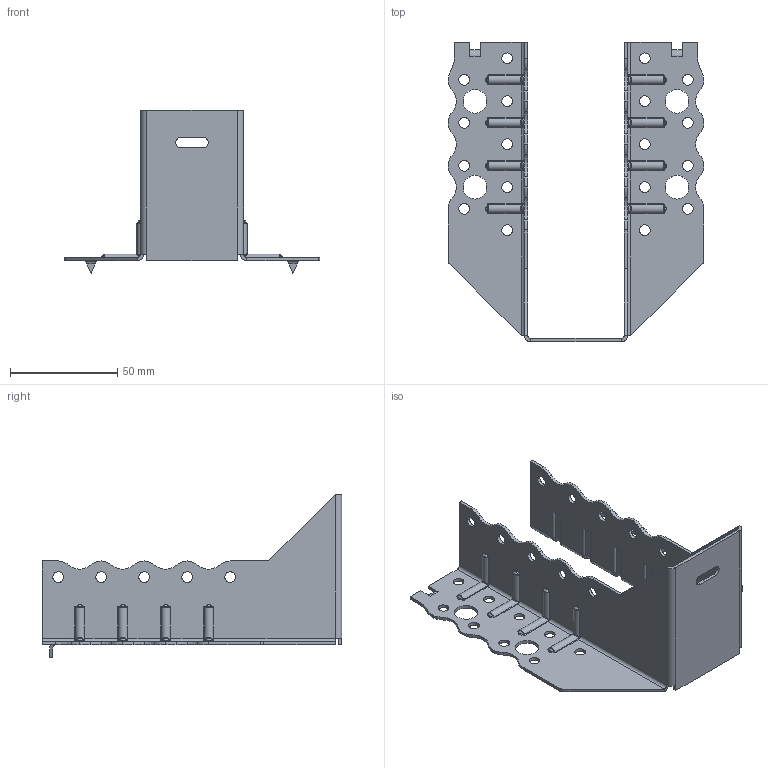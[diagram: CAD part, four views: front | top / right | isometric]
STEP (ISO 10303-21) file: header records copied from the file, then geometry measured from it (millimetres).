
FILE_DESCRIPTION (( 'STEP AP203' ), '1' );
FILE_NAME ('30606TOP.STEP', '2021-04-06T17:43:29', ( '' ), ( '' ), 'SwSTEP 2.0', 'SolidWorks 2013', '' );
FILE_SCHEMA (( 'CONFIG_CONTROL_DESIGN' ));
Length unit declared in the file: millimetre
Products named in the file (1): 30606TOP
Bounding box: 119 x 139.5 x 76 mm (x, y, z)
Volume: 32623.4 mm3; surface area: 46335.9 mm2
Topology: 1 solids, 1 shells, 511 faces, 1275 edges, 766 vertices
Faces by surface type: cylinder 253, bspline 120, plane 106, torus 16, sphere 16
Entity records: 22956 total; most frequent: CARTESIAN_POINT 11305, ORIENTED_EDGE 2550, DIRECTION 2281, EDGE_CURVE 1275, AXIS2_PLACEMENT_3D 870, VERTEX_POINT 766, EDGE_LOOP 577, LINE 541
